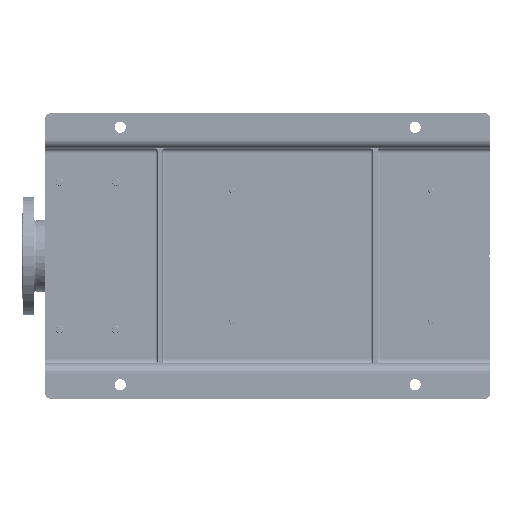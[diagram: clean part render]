
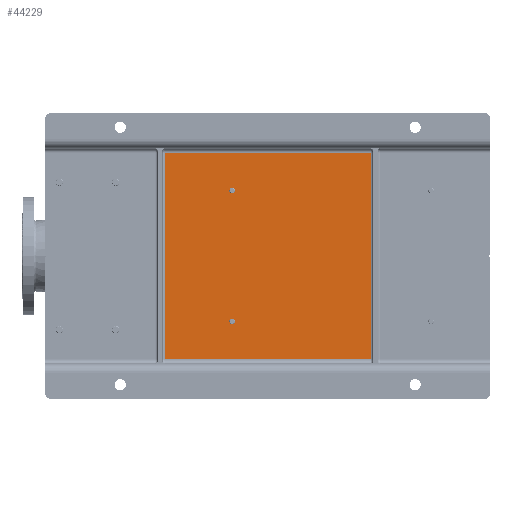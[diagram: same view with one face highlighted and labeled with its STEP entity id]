
A CAD part, front view. The second image highlights one B-rep face of the part: STEP entity #44229.
In plain terms, the highlighted planar face has unit normal (0, -1, 0).
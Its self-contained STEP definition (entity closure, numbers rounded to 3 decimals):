
#6476 = EDGE_CURVE ( 'NONE', #172299, #178962, #23255, .T. ) ;
#8959 = EDGE_CURVE ( 'NONE', #178962, #60935, #53286, .T. ) ;
#9069 = FACE_OUTER_BOUND ( 'NONE', #163110, .T. ) ;
#10702 = EDGE_CURVE ( 'NONE', #107498, #172299, #16882, .T. ) ;
#13332 = EDGE_LOOP ( 'NONE', ( #245830, #24190 ) ) ;
#16043 = AXIS2_PLACEMENT_3D ( 'NONE', #23588, #197530, #239663 ) ;
#16882 = LINE ( 'NONE', #172903, #88967 ) ;
#20256 = CIRCLE ( 'NONE', #16043, 6. ) ;
#20282 = VERTEX_POINT ( 'NONE', #210089 ) ;
#23255 = LINE ( 'NONE', #124201, #26532 ) ;
#23588 = CARTESIAN_POINT ( 'NONE',  ( 165.5, 65., -399. ) ) ;
#24190 = ORIENTED_EDGE ( 'NONE', *, *, #57708, .T. ) ;
#26532 = VECTOR ( 'NONE', #140894, 1000. ) ;
#26967 = DIRECTION ( 'NONE',  ( 0., -1., 0. ) ) ;
#31244 = ORIENTED_EDGE ( 'NONE', *, *, #6476, .T. ) ;
#41784 = DIRECTION ( 'NONE',  ( -1., 0., 0. ) ) ;
#44159 = VERTEX_POINT ( 'NONE', #221350 ) ;
#44229 = ADVANCED_FACE ( 'NONE', ( #49975, #239282, #9069 ), #104967, .T. ) ;
#47509 = VECTOR ( 'NONE', #54545, 1000. ) ;
#49975 = FACE_BOUND ( 'NONE', #242357, .T. ) ;
#51608 = DIRECTION ( 'NONE',  ( 0., 1., 0. ) ) ;
#52354 = CARTESIAN_POINT ( 'NONE',  ( 165.5, 65., -393. ) ) ;
#53286 = LINE ( 'NONE', #229711, #47509 ) ;
#54545 = DIRECTION ( 'NONE',  ( 0., 0., 1. ) ) ;
#57110 = EDGE_CURVE ( 'NONE', #183520, #44159, #57164, .T. ) ;
#57164 = CIRCLE ( 'NONE', #65400, 6. ) ;
#57708 = EDGE_CURVE ( 'NONE', #44159, #183520, #171091, .T. ) ;
#60935 = VERTEX_POINT ( 'NONE', #182833 ) ;
#62831 = CARTESIAN_POINT ( 'NONE',  ( 85., 65., -695. ) ) ;
#63050 = EDGE_CURVE ( 'NONE', #83135, #20282, #20256, .T. ) ;
#65400 = AXIS2_PLACEMENT_3D ( 'NONE', #225540, #51608, #206350 ) ;
#81272 = AXIS2_PLACEMENT_3D ( 'NONE', #144107, #145375, #200378 ) ;
#83135 = VERTEX_POINT ( 'NONE', #52354 ) ;
#86791 = AXIS2_PLACEMENT_3D ( 'NONE', #102684, #185735, #202357 ) ;
#87108 = CARTESIAN_POINT ( 'NONE',  ( 75., 65., -950. ) ) ;
#88967 = VECTOR ( 'NONE', #245848, 1000. ) ;
#94762 = AXIS2_PLACEMENT_3D ( 'NONE', #87108, #26967, #182982 ) ;
#94865 = EDGE_CURVE ( 'NONE', #20282, #83135, #197015, .T. ) ;
#95541 = CARTESIAN_POINT ( 'NONE',  ( 85., 65., -255. ) ) ;
#102684 = CARTESIAN_POINT ( 'NONE',  ( 165.5, 65., -399. ) ) ;
#104967 = PLANE ( 'NONE',  #94762 ) ;
#107498 = VERTEX_POINT ( 'NONE', #95541 ) ;
#108393 = ORIENTED_EDGE ( 'NONE', *, *, #63050, .T. ) ;
#124201 = CARTESIAN_POINT ( 'NONE',  ( 75., 65., -695. ) ) ;
#132431 = VECTOR ( 'NONE', #41784, 1000. ) ;
#140894 = DIRECTION ( 'NONE',  ( 1., 0., 0. ) ) ;
#141882 = EDGE_CURVE ( 'NONE', #60935, #107498, #250290, .T. ) ;
#144107 = CARTESIAN_POINT ( 'NONE',  ( 444.5, 65., -399. ) ) ;
#145375 = DIRECTION ( 'NONE',  ( 0., 1., 0. ) ) ;
#149106 = ORIENTED_EDGE ( 'NONE', *, *, #141882, .T. ) ;
#160581 = ORIENTED_EDGE ( 'NONE', *, *, #8959, .T. ) ;
#163110 = EDGE_LOOP ( 'NONE', ( #213809, #31244, #160581, #149106 ) ) ;
#171091 = CIRCLE ( 'NONE', #81272, 6. ) ;
#172299 = VERTEX_POINT ( 'NONE', #62831 ) ;
#172903 = CARTESIAN_POINT ( 'NONE',  ( 85., 65., -700. ) ) ;
#178962 = VERTEX_POINT ( 'NONE', #221800 ) ;
#182833 = CARTESIAN_POINT ( 'NONE',  ( 525., 65., -255. ) ) ;
#182982 = DIRECTION ( 'NONE',  ( 0., 0., -1. ) ) ;
#183520 = VERTEX_POINT ( 'NONE', #222117 ) ;
#184527 = ORIENTED_EDGE ( 'NONE', *, *, #94865, .T. ) ;
#185735 = DIRECTION ( 'NONE',  ( 0., 1., 0. ) ) ;
#197015 = CIRCLE ( 'NONE', #86791, 6. ) ;
#197530 = DIRECTION ( 'NONE',  ( 0., 1., 0. ) ) ;
#200378 = DIRECTION ( 'NONE',  ( 0., 0., 1. ) ) ;
#202357 = DIRECTION ( 'NONE',  ( 0., 0., -1. ) ) ;
#206350 = DIRECTION ( 'NONE',  ( 0., 0., 1. ) ) ;
#210089 = CARTESIAN_POINT ( 'NONE',  ( 165.5, 65., -405. ) ) ;
#213809 = ORIENTED_EDGE ( 'NONE', *, *, #10702, .T. ) ;
#216961 = CARTESIAN_POINT ( 'NONE',  ( 75., 65., -255. ) ) ;
#221350 = CARTESIAN_POINT ( 'NONE',  ( 444.5, 65., -405. ) ) ;
#221800 = CARTESIAN_POINT ( 'NONE',  ( 525., 65., -695. ) ) ;
#222117 = CARTESIAN_POINT ( 'NONE',  ( 444.5, 65., -393. ) ) ;
#225540 = CARTESIAN_POINT ( 'NONE',  ( 444.5, 65., -399. ) ) ;
#229711 = CARTESIAN_POINT ( 'NONE',  ( 525., 65., -250. ) ) ;
#239282 = FACE_BOUND ( 'NONE', #13332, .T. ) ;
#239663 = DIRECTION ( 'NONE',  ( 0., 0., -1. ) ) ;
#242357 = EDGE_LOOP ( 'NONE', ( #108393, #184527 ) ) ;
#245830 = ORIENTED_EDGE ( 'NONE', *, *, #57110, .T. ) ;
#245848 = DIRECTION ( 'NONE',  ( 0., 0., -1. ) ) ;
#250290 = LINE ( 'NONE', #216961, #132431 ) ;
